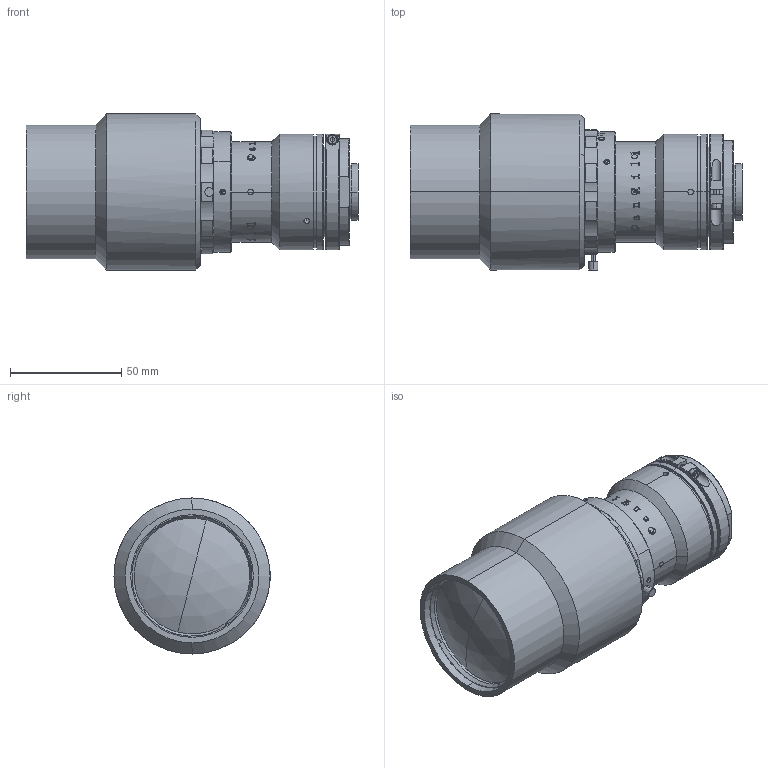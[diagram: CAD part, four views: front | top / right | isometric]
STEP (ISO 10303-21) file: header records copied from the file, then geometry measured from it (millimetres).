
FILE_DESCRIPTION (( 'STEP AP203' ), '1' );
FILE_NAME ('XF-PTL03716-C-VI.STEP', '2020-05-09T05:43:43', ( 'puyufan' ), ( '' ), 'SwSTEP 2.0', 'SolidWorks 2014', '' );
FILE_SCHEMA (( 'CONFIG_CONTROL_DESIGN' ));
Length unit declared in the file: millimetre
Products named in the file (1): XF-PTL03716-C-VI
Bounding box: 148.94 x 70 x 70 mm (x, y, z)
Volume: 378353.7 mm3; surface area: 54210 mm2
Topology: 4 solids, 16 shells, 811 faces, 2125 edges, 1386 vertices
Faces by surface type: plane 343, cylinder 224, bspline 148, cone 72, torus 22, sphere 2
Entity records: 45348 total; most frequent: CARTESIAN_POINT 26475, ORIENTED_EDGE 4234, DIRECTION 3419, EDGE_CURVE 2117, VERTEX_POINT 1386, AXIS2_PLACEMENT_3D 1326, EDGE_LOOP 887, FACE_OUTER_BOUND 811
